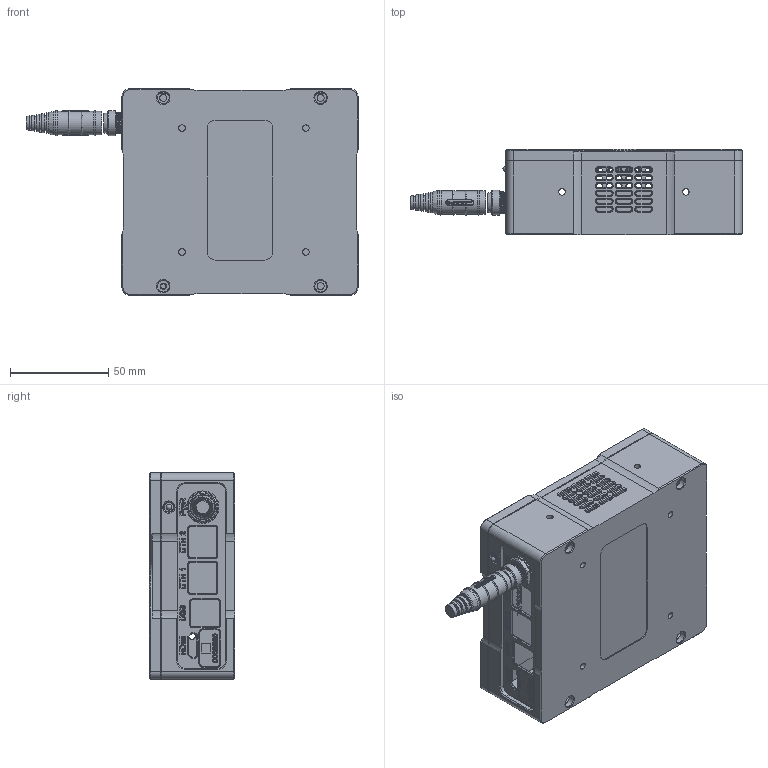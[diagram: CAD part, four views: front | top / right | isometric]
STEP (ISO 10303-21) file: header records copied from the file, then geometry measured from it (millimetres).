
FILE_DESCRIPTION (( 'STEP AP214' ), '1' );
FILE_NAME ('CAD_Gocator-GoMax.STEP', '2018-11-20T20:54:01', ( '' ), ( '' ), 'SwSTEP 2.0', 'SolidWorks 2016', '' );
FILE_SCHEMA (( 'AUTOMOTIVE_DESIGN' ));
Length unit declared in the file: millimetre
Products named in the file (1): CAD_Gocator-GoMax
Bounding box: 168.8 x 43.5 x 105 mm (x, y, z)
Surface area: 86842.1 mm2 (no closed solid volume)
Topology: 0 solids, 33 shells, 867 faces, 3525 edges, 2667 vertices
Faces by surface type: plane 515, cylinder 200, cone 116, bspline 36
Full cylindrical faces by diameter (mm): 0.509 x1, 0.965 x2, 2.5 x1, 2.921 x1, 3.3 x10, 4.826 x1, 5.1 x1, 6 x4, 8.536 x1, 10.398 x1, 11.303 x1, 11.938 x4, 12.446 x2, 12.7 x1, 15.089 x2, 15.875 x1
Entity records: 54746 total; most frequent: CARTESIAN_POINT 17297, ORIENTED_EDGE 5682, DIRECTION 5079, EDGE_CURVE 3459, VERTEX_POINT 2652, VECTOR 2071, LINE 2071, AXIS2_PLACEMENT_3D 1504
